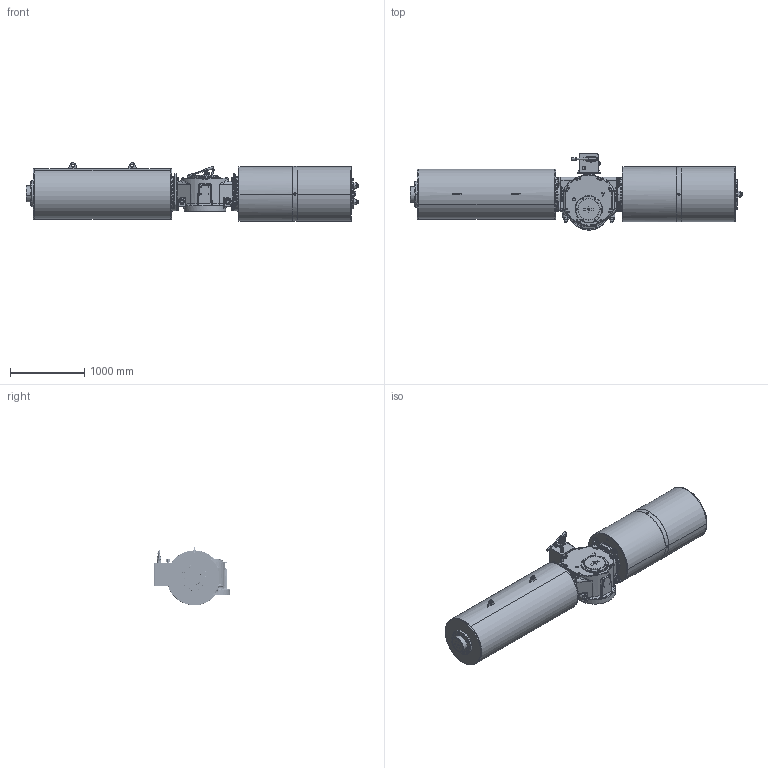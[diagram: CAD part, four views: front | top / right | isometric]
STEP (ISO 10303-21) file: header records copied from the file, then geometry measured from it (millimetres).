
FILE_DESCRIPTION (( 'STEP AP203' ), '1' );
FILE_NAME ('VTS7-700D-SR-MH-FO.STEP', '2023-01-01T10:11:59', ( '' ), ( '' ), 'SwSTEP 2.0', 'SolidWorks 2020', '' );
FILE_SCHEMA (( 'CONFIG_CONTROL_DESIGN' ));
Length unit declared in the file: millimetre
Products named in the file (1): VTS7-700D-SR-MH-FO
Bounding box: 4475 x 1027 x 789.5 mm (x, y, z)
Volume: 1556193304.9 mm3; surface area: 14613004.8 mm2
Topology: 42 solids, 77 shells, 4349 faces, 10509 edges, 6388 vertices
Faces by surface type: cylinder 1582, plane 1347, cone 905, bspline 374, torus 73, sphere 68
Entity records: 155263 total; most frequent: CARTESIAN_POINT 56076, DIRECTION 21207, ORIENTED_EDGE 20538, EDGE_CURVE 10269, AXIS2_PLACEMENT_3D 8588, VERTEX_POINT 6368, EDGE_LOOP 4769, CIRCLE 4612
